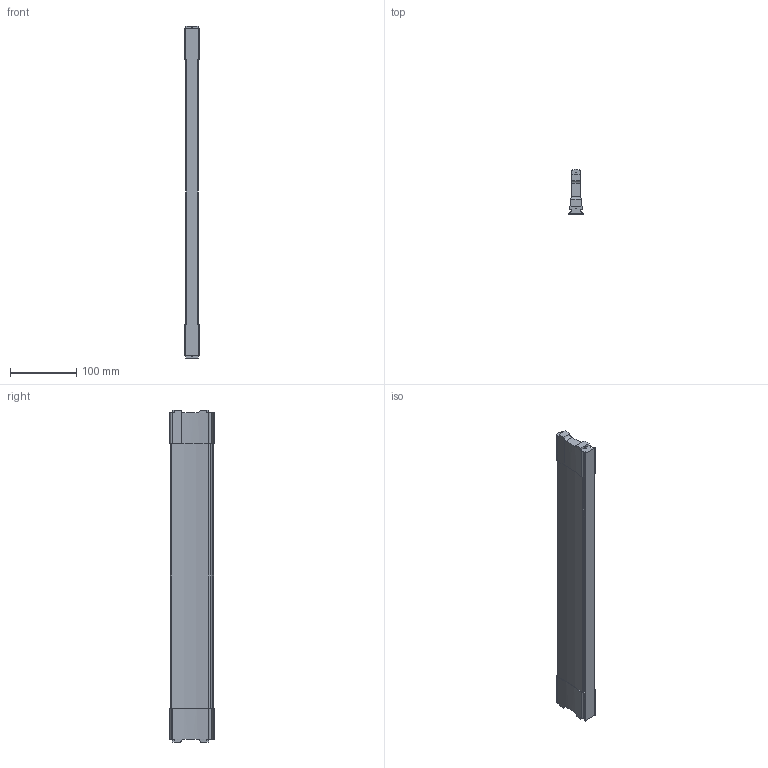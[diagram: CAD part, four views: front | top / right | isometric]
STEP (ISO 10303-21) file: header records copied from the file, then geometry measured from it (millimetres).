
FILE_DESCRIPTION (( 'STEP AP214' ), '1' );
FILE_NAME ('Traverse DWD NL525 Mass X493,4.step', '2010-09-21T13:16:41', ( 'grass' ), ( '' ), 'SwSTEP 2.0', 'SolidWorks 2010', '' );
FILE_SCHEMA (( 'AUTOMOTIVE_DESIGN' ));
Length unit declared in the file: millimetre
Products named in the file (1): Traverse DWD NL525 Mass X493,4
Bounding box: 21.4 x 67.5 x 502.4 mm (x, y, z)
Volume: 419212 mm3; surface area: 87581.4 mm2
Topology: 1 solids, 1 shells, 125 faces, 369 edges, 246 vertices
Faces by surface type: cylinder 68, plane 57
Entity records: 4377 total; most frequent: CARTESIAN_POINT 879, DIRECTION 753, ORIENTED_EDGE 738, EDGE_CURVE 369, AXIS2_PLACEMENT_3D 268, VERTEX_POINT 246, VECTOR 217, LINE 217
